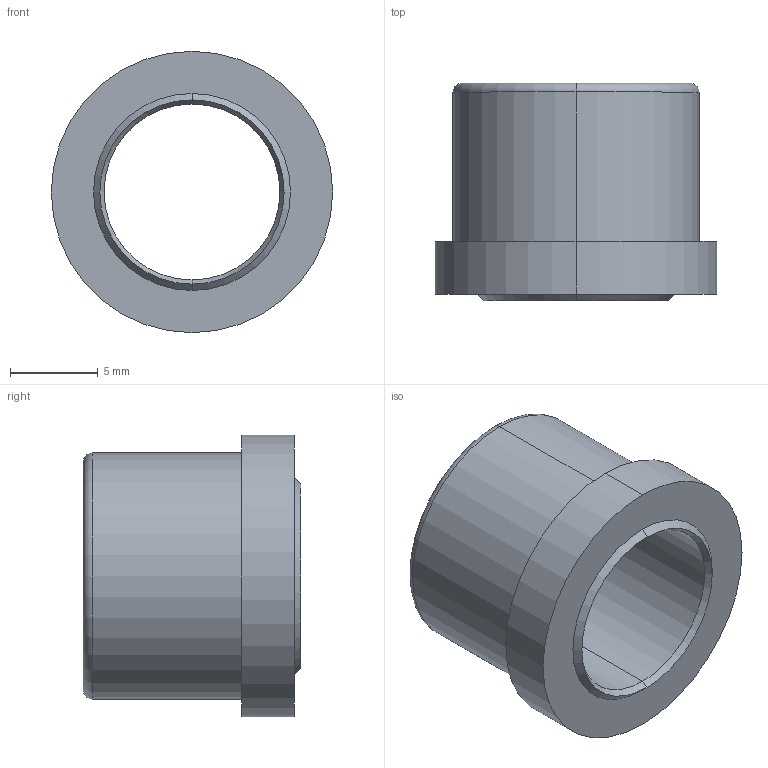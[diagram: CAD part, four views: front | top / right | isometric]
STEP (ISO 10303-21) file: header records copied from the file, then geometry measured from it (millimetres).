
FILE_DESCRIPTION (( 'STEP AP214' ), '1' );
FILE_NAME ('BR11W 9 x 12.STEP', '2019-12-09T17:21:48', ( 'August' ), ( '' ), 'SwSTEP 2.0', 'SolidWorks 2018', '' );
FILE_SCHEMA (( 'AUTOMOTIVE_DESIGN' ));
Length unit declared in the file: millimetre
Products named in the file (1): BR11W 9 x 12
Bounding box: 16 x 12.36 x 16 mm (x, y, z)
Volume: 1043.4 mm3; surface area: 1161.5 mm2
Topology: 1 solids, 1 shells, 17 faces, 34 edges, 20 vertices
Faces by surface type: cone 6, cylinder 6, plane 3, torus 2
Entity records: 484 total; most frequent: DIRECTION 92, CARTESIAN_POINT 72, ORIENTED_EDGE 68, AXIS2_PLACEMENT_3D 40, EDGE_CURVE 34, CIRCLE 22, EDGE_LOOP 20, VERTEX_POINT 20
